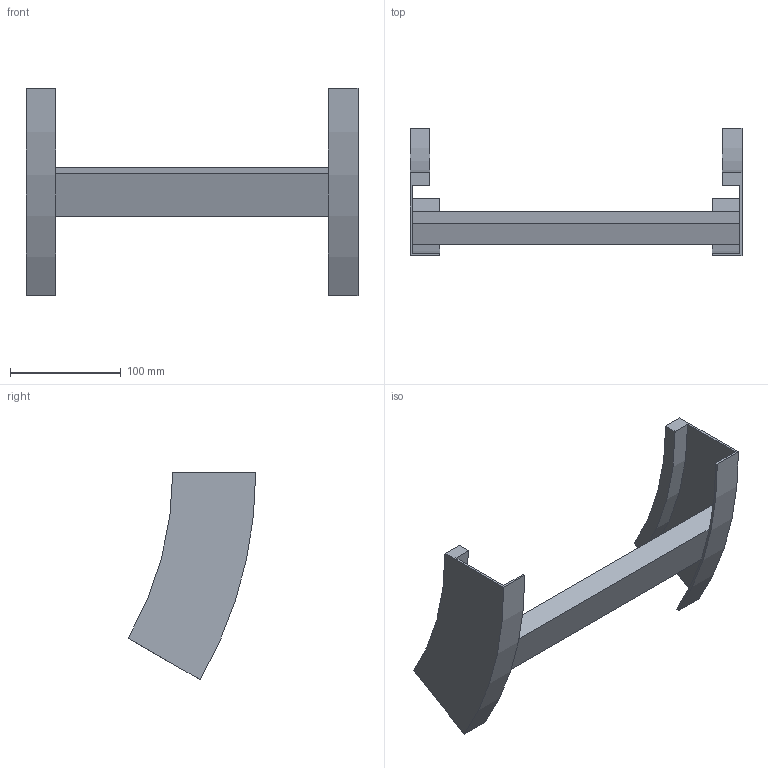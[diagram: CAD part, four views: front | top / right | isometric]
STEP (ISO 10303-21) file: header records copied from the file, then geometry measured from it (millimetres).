
FILE_DESCRIPTION (( 'STEP AP214' ), '1' );
FILE_NAME ('B2X32B3C300XX.step', '2025-03-20T10:02:46', ( '' ), ( '' ), 'SwSTEP 2.0', 'SolidWorks 2023', '' );
FILE_SCHEMA (( 'AUTOMOTIVE_DESIGN' ));
Length unit declared in the file: millimetre
Products named in the file (3): B2X32B3C300XX; TRAVERSINO_300; B2_LONGH.SALITA_30°_H75_R300
Assembly tree (3 placements, depth 2):
  B2X32B3C300XX
    B2_LONGH.SALITA_30°_H75_R300  x2
    TRAVERSINO_300
Bounding box: 300 x 115.19 x 187.5 mm (x, y, z)
Volume: 373881.9 mm3; surface area: 123268.8 mm2
Topology: 3 solids, 3 shells, 26 faces, 60 edges, 40 vertices
Faces by surface type: plane 18, cylinder 8
Entity records: 544 total; most frequent: DIRECTION 88, CARTESIAN_POINT 82, ORIENTED_EDGE 72, EDGE_CURVE 36, AXIS2_PLACEMENT_3D 30, VECTOR 28, LINE 28, VERTEX_POINT 24
